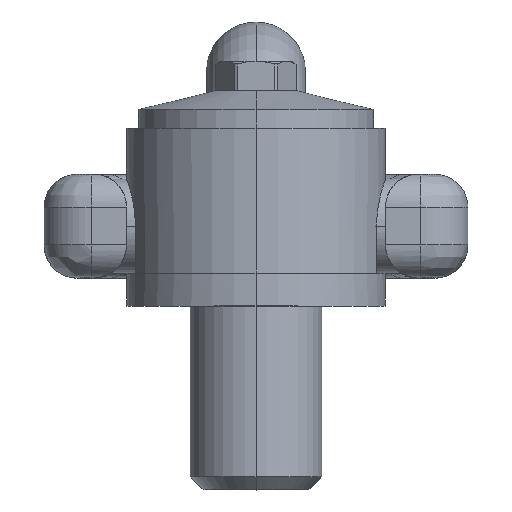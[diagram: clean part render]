
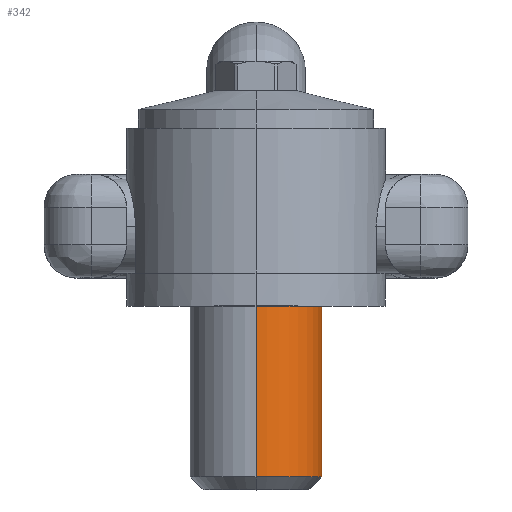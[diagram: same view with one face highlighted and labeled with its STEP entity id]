
A CAD part, top view. The second image highlights one B-rep face of the part: STEP entity #342.
In plain terms, the highlighted cylindrical face has radius 28 mm (diameter 56 mm), a partial arc.
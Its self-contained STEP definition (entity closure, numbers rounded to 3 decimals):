
#322 = VERTEX_POINT ( 'NONE', #3712 ) ;
#323 = ORIENTED_EDGE ( 'NONE', *, *, #331, .T. ) ;
#324 = VERTEX_POINT ( 'NONE', #3711 ) ;
#326 = VERTEX_POINT ( 'NONE', #3710 ) ;
#328 = ORIENTED_EDGE ( 'NONE', *, *, #330, .T. ) ;
#330 = EDGE_CURVE ( 'NONE', #324, #322, #3709, .T. ) ;
#331 = EDGE_CURVE ( 'NONE', #322, #326, #3704, .T. ) ;
#342 = ADVANCED_FACE ( 'NONE', ( #3744 ), #3742, .T. ) ;
#769 = EDGE_LOOP ( 'NONE', ( #328, #323, #1515, #1182 ) ) ;
#790 = VERTEX_POINT ( 'NONE', #4826 ) ;
#1182 = ORIENTED_EDGE ( 'NONE', *, *, #1223, .F. ) ;
#1223 = EDGE_CURVE ( 'NONE', #324, #790, #4878, .T. ) ;
#1514 = EDGE_CURVE ( 'NONE', #326, #790, #4864, .T. ) ;
#1515 = ORIENTED_EDGE ( 'NONE', *, *, #1514, .T. ) ;
#3701 = DIRECTION ( 'NONE',  ( 0., 1., 0. ) ) ;
#3702 = VECTOR ( 'NONE', #3701, 1000. ) ;
#3703 = CARTESIAN_POINT ( 'NONE',  ( 0., -78., -28. ) ) ;
#3704 = LINE ( 'NONE', #3703, #3702 ) ;
#3705 = DIRECTION ( 'NONE',  ( 0., 0., -1. ) ) ;
#3706 = DIRECTION ( 'NONE',  ( 0., 1., 0. ) ) ;
#3707 = CARTESIAN_POINT ( 'NONE',  ( 0., -72.5, 0. ) ) ;
#3708 = AXIS2_PLACEMENT_3D ( 'NONE', #3707, #3706, #3705 ) ;
#3709 = CIRCLE ( 'NONE', #3708, 28. ) ;
#3710 = CARTESIAN_POINT ( 'NONE',  ( 0., 0., -28. ) ) ;
#3711 = CARTESIAN_POINT ( 'NONE',  ( 0., -72.5, 28. ) ) ;
#3712 = CARTESIAN_POINT ( 'NONE',  ( 0., -72.5, -28. ) ) ;
#3738 = DIRECTION ( 'NONE',  ( 0., 0., 1. ) ) ;
#3739 = DIRECTION ( 'NONE',  ( 0., 1., 0. ) ) ;
#3740 = CARTESIAN_POINT ( 'NONE',  ( 0., -78., 0. ) ) ;
#3741 = AXIS2_PLACEMENT_3D ( 'NONE', #3740, #3739, #3738 ) ;
#3742 = CYLINDRICAL_SURFACE ( 'NONE', #3741, 28. ) ;
#3744 = FACE_OUTER_BOUND ( 'NONE', #769, .T. ) ;
#4826 = CARTESIAN_POINT ( 'NONE',  ( 0., 0., 28. ) ) ;
#4860 = DIRECTION ( 'NONE',  ( 0., 0., 1. ) ) ;
#4861 = DIRECTION ( 'NONE',  ( 0., -1., 0. ) ) ;
#4862 = CARTESIAN_POINT ( 'NONE',  ( 0., 0., 0. ) ) ;
#4863 = AXIS2_PLACEMENT_3D ( 'NONE', #4862, #4861, #4860 ) ;
#4864 = CIRCLE ( 'NONE', #4863, 28. ) ;
#4875 = DIRECTION ( 'NONE',  ( 0., 1., 0. ) ) ;
#4876 = VECTOR ( 'NONE', #4875, 1000. ) ;
#4877 = CARTESIAN_POINT ( 'NONE',  ( 0., -78., 28. ) ) ;
#4878 = LINE ( 'NONE', #4877, #4876 ) ;
